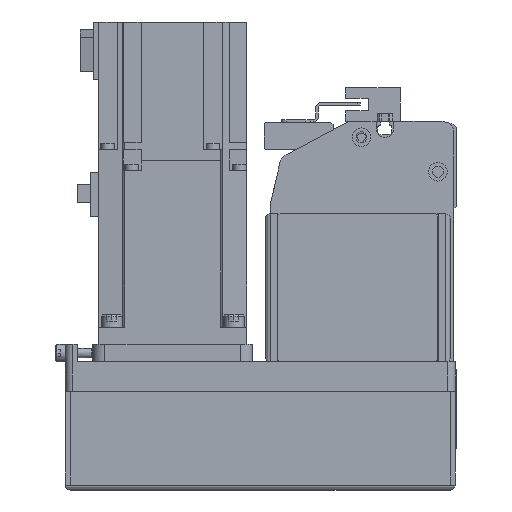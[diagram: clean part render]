
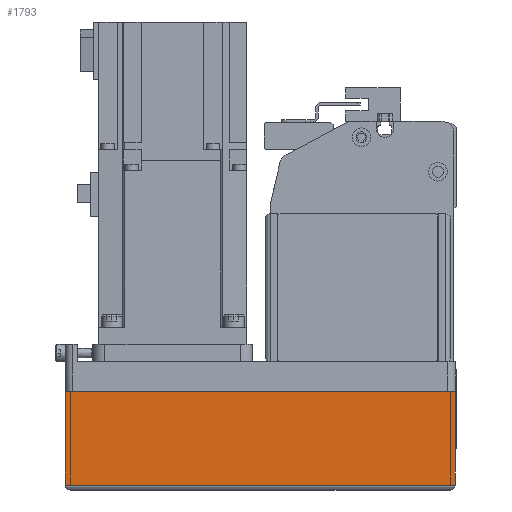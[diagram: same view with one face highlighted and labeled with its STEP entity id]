
A CAD part, left-side view. The second image highlights one B-rep face of the part: STEP entity #1793.
In plain terms, the highlighted planar face has unit normal (-1, 0, 0) as drawn and (0, -1, 0) by its records, which use the part's own axes.
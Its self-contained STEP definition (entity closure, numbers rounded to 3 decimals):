
#1793 = ADVANCED_FACE( '', ( #4246 ), #4247, .T. );
#4246 = FACE_OUTER_BOUND( '', #7553, .T. );
#4247 = PLANE( '', #7554 );
#7553 = EDGE_LOOP( '', ( #12682, #12683, #12684, #12685 ) );
#7554 = AXIS2_PLACEMENT_3D( '', #12686, #12687, #12688 );
#12682 = ORIENTED_EDGE( '', *, *, #18989, .F. );
#12683 = ORIENTED_EDGE( '', *, *, #20310, .F. );
#12684 = ORIENTED_EDGE( '', *, *, #20311, .T. );
#12685 = ORIENTED_EDGE( '', *, *, #20312, .T. );
#12686 = CARTESIAN_POINT( '', ( -158., -39., -12.1 ) );
#12687 = DIRECTION( '', ( 0., -1., 0. ) );
#12688 = DIRECTION( '', ( 0., 0., -1. ) );
#18989 = EDGE_CURVE( '', #22669, #22671, #22672, .T. );
#20310 = EDGE_CURVE( '', #24852, #22669, #24853, .T. );
#20311 = EDGE_CURVE( '', #24852, #24854, #24855, .T. );
#20312 = EDGE_CURVE( '', #24854, #22671, #24856, .T. );
#22669 = VERTEX_POINT( '', #28081 );
#22671 = VERTEX_POINT( '', #28084 );
#22672 = LINE( '', #28085, #28086 );
#24852 = VERTEX_POINT( '', #31364 );
#24853 = LINE( '', #31365, #31366 );
#24854 = VERTEX_POINT( '', #31367 );
#24855 = LINE( '', #31368, #31369 );
#24856 = LINE( '', #31370, #31371 );
#28081 = CARTESIAN_POINT( '', ( 0., -39., -12.1 ) );
#28084 = CARTESIAN_POINT( '', ( 0., -39., -50. ) );
#28085 = CARTESIAN_POINT( '', ( 0., -39., -12.1 ) );
#28086 = VECTOR( '', #35231, 1000. );
#31364 = CARTESIAN_POINT( '', ( -158., -39., -12.1 ) );
#31365 = CARTESIAN_POINT( '', ( -158., -39., -12.1 ) );
#31366 = VECTOR( '', #36924, 1000. );
#31367 = CARTESIAN_POINT( '', ( -158., -39., -50. ) );
#31368 = CARTESIAN_POINT( '', ( -158., -39., -12.1 ) );
#31369 = VECTOR( '', #36925, 1000. );
#31370 = CARTESIAN_POINT( '', ( -158., -39., -50. ) );
#31371 = VECTOR( '', #36926, 1000. );
#35231 = DIRECTION( '', ( 0., 0., -1. ) );
#36924 = DIRECTION( '', ( 1., 0., 0. ) );
#36925 = DIRECTION( '', ( 0., 0., -1. ) );
#36926 = DIRECTION( '', ( 1., 0., 0. ) );
